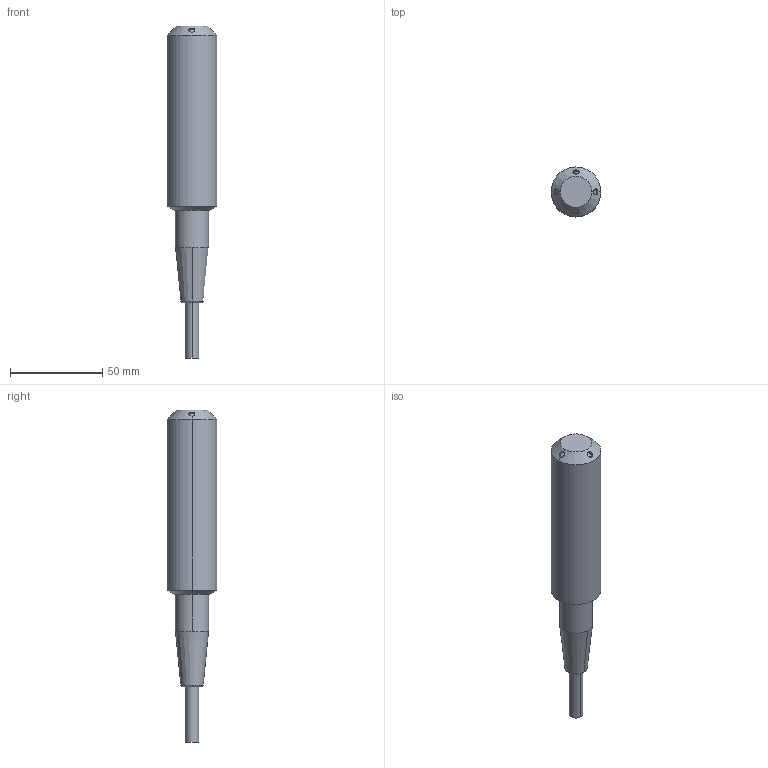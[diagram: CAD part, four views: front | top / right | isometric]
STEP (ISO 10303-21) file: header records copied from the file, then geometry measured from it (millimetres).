
FILE_DESCRIPTION (( 'STEP AP214' ), '1' );
FILE_NAME ('BPQ1A.STEP', '2024-12-02T06:49:39', ( '' ), ( '' ), 'SwSTEP 2.0', 'SolidWorks 2022', '' );
FILE_SCHEMA (( 'AUTOMOTIVE_DESIGN' ));
Length unit declared in the file: millimetre
Products named in the file (1): BPQ1A
Bounding box: 27 x 27 x 180 mm (x, y, z)
Volume: 67731.4 mm3; surface area: 12326.6 mm2
Topology: 1 solids, 1 shells, 38 faces, 90 edges, 58 vertices
Faces by surface type: cylinder 14, bspline 8, plane 8, cone 6, torus 2
Entity records: 5724 total; most frequent: CARTESIAN_POINT 4776, ORIENTED_EDGE 180, DIRECTION 148, EDGE_CURVE 90, AXIS2_PLACEMENT_3D 63, VERTEX_POINT 58, EDGE_LOOP 42, ADVANCED_FACE 38
